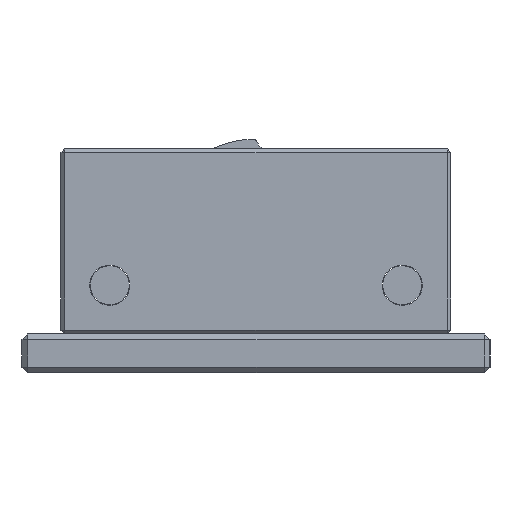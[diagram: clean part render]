
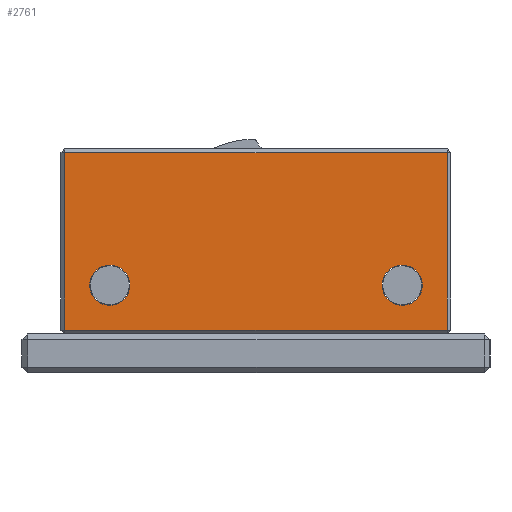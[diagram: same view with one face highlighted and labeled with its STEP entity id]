
A CAD part, left-side view. The second image highlights one B-rep face of the part: STEP entity #2761.
In plain terms, the highlighted planar face has unit normal (-1, 0, 0).
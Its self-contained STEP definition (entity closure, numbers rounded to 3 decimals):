
#1086 = PLANE('',#1087);
#1087 = AXIS2_PLACEMENT_3D('',#1088,#1089,#1090);
#1088 = CARTESIAN_POINT('',(-70.6,-40.,8.4));
#1089 = DIRECTION('',(-0.707,0.,-0.707));
#1090 = DIRECTION('',(0.,1.,0.));
#1968 = VERTEX_POINT('',#1969);
#1969 = CARTESIAN_POINT('',(-71.,-39.2,8.8));
#1990 = EDGE_CURVE('',#1968,#1991,#1993,.T.);
#1991 = VERTEX_POINT('',#1992);
#1992 = CARTESIAN_POINT('',(-71.,39.2,8.8));
#1993 = SURFACE_CURVE('',#1994,(#1998,#2005),.PCURVE_S1.);
#1994 = LINE('',#1995,#1996);
#1995 = CARTESIAN_POINT('',(-71.,-40.,8.8));
#1996 = VECTOR('',#1997,1.);
#1997 = DIRECTION('',(0.,1.,0.));
#1998 = PCURVE('',#1086,#1999);
#1999 = DEFINITIONAL_REPRESENTATION('',(#2000),#2004);
#2000 = LINE('',#2001,#2002);
#2001 = CARTESIAN_POINT('',(0.,-0.566));
#2002 = VECTOR('',#2003,1.);
#2003 = DIRECTION('',(1.,0.));
#2004 = ( GEOMETRIC_REPRESENTATION_CONTEXT(2) 
PARAMETRIC_REPRESENTATION_CONTEXT() REPRESENTATION_CONTEXT('2D SPACE',''
  ) );
#2005 = PCURVE('',#2006,#2011);
#2006 = PLANE('',#2007);
#2007 = AXIS2_PLACEMENT_3D('',#2008,#2009,#2010);
#2008 = CARTESIAN_POINT('',(-71.,-40.,8.));
#2009 = DIRECTION('',(1.,0.,0.));
#2010 = DIRECTION('',(0.,0.,1.));
#2011 = DEFINITIONAL_REPRESENTATION('',(#2012),#2016);
#2012 = LINE('',#2013,#2014);
#2013 = CARTESIAN_POINT('',(0.8,0.));
#2014 = VECTOR('',#2015,1.);
#2015 = DIRECTION('',(0.,-1.));
#2016 = ( GEOMETRIC_REPRESENTATION_CONTEXT(2) 
PARAMETRIC_REPRESENTATION_CONTEXT() REPRESENTATION_CONTEXT('2D SPACE',''
  ) );
#2643 = PLANE('',#2644);
#2644 = AXIS2_PLACEMENT_3D('',#2645,#2646,#2647);
#2645 = CARTESIAN_POINT('',(-70.6,-39.6,8.));
#2646 = DIRECTION('',(-0.707,-0.707,0.
    ));
#2647 = DIRECTION('',(0.,0.,-1.));
#2761 = ADVANCED_FACE('',(#2762,#2842,#2877),#2006,.F.);
#2762 = FACE_BOUND('',#2763,.F.);
#2763 = EDGE_LOOP('',(#2764,#2787,#2788,#2816));
#2764 = ORIENTED_EDGE('',*,*,#2765,.F.);
#2765 = EDGE_CURVE('',#1968,#2766,#2768,.T.);
#2766 = VERTEX_POINT('',#2767);
#2767 = CARTESIAN_POINT('',(-71.,-39.2,45.2));
#2768 = SURFACE_CURVE('',#2769,(#2773,#2780),.PCURVE_S1.);
#2769 = LINE('',#2770,#2771);
#2770 = CARTESIAN_POINT('',(-71.,-39.2,8.));
#2771 = VECTOR('',#2772,1.);
#2772 = DIRECTION('',(0.,0.,1.));
#2773 = PCURVE('',#2006,#2774);
#2774 = DEFINITIONAL_REPRESENTATION('',(#2775),#2779);
#2775 = LINE('',#2776,#2777);
#2776 = CARTESIAN_POINT('',(0.,-0.8));
#2777 = VECTOR('',#2778,1.);
#2778 = DIRECTION('',(1.,0.));
#2779 = ( GEOMETRIC_REPRESENTATION_CONTEXT(2) 
PARAMETRIC_REPRESENTATION_CONTEXT() REPRESENTATION_CONTEXT('2D SPACE',''
  ) );
#2780 = PCURVE('',#2643,#2781);
#2781 = DEFINITIONAL_REPRESENTATION('',(#2782),#2786);
#2782 = LINE('',#2783,#2784);
#2783 = CARTESIAN_POINT('',(0.,-0.566));
#2784 = VECTOR('',#2785,1.);
#2785 = DIRECTION('',(-1.,0.));
#2786 = ( GEOMETRIC_REPRESENTATION_CONTEXT(2) 
PARAMETRIC_REPRESENTATION_CONTEXT() REPRESENTATION_CONTEXT('2D SPACE',''
  ) );
#2787 = ORIENTED_EDGE('',*,*,#1990,.T.);
#2788 = ORIENTED_EDGE('',*,*,#2789,.T.);
#2789 = EDGE_CURVE('',#1991,#2790,#2792,.T.);
#2790 = VERTEX_POINT('',#2791);
#2791 = CARTESIAN_POINT('',(-71.,39.2,45.2));
#2792 = SURFACE_CURVE('',#2793,(#2797,#2804),.PCURVE_S1.);
#2793 = LINE('',#2794,#2795);
#2794 = CARTESIAN_POINT('',(-71.,39.2,8.));
#2795 = VECTOR('',#2796,1.);
#2796 = DIRECTION('',(0.,0.,1.));
#2797 = PCURVE('',#2006,#2798);
#2798 = DEFINITIONAL_REPRESENTATION('',(#2799),#2803);
#2799 = LINE('',#2800,#2801);
#2800 = CARTESIAN_POINT('',(0.,-79.2));
#2801 = VECTOR('',#2802,1.);
#2802 = DIRECTION('',(1.,0.));
#2803 = ( GEOMETRIC_REPRESENTATION_CONTEXT(2) 
PARAMETRIC_REPRESENTATION_CONTEXT() REPRESENTATION_CONTEXT('2D SPACE',''
  ) );
#2804 = PCURVE('',#2805,#2810);
#2805 = PLANE('',#2806);
#2806 = AXIS2_PLACEMENT_3D('',#2807,#2808,#2809);
#2807 = CARTESIAN_POINT('',(-70.6,39.6,8.));
#2808 = DIRECTION('',(0.707,-0.707,0.
    ));
#2809 = DIRECTION('',(0.,0.,-1.));
#2810 = DEFINITIONAL_REPRESENTATION('',(#2811),#2815);
#2811 = LINE('',#2812,#2813);
#2812 = CARTESIAN_POINT('',(0.,-0.566));
#2813 = VECTOR('',#2814,1.);
#2814 = DIRECTION('',(-1.,0.));
#2815 = ( GEOMETRIC_REPRESENTATION_CONTEXT(2) 
PARAMETRIC_REPRESENTATION_CONTEXT() REPRESENTATION_CONTEXT('2D SPACE',''
  ) );
#2816 = ORIENTED_EDGE('',*,*,#2817,.F.);
#2817 = EDGE_CURVE('',#2766,#2790,#2818,.T.);
#2818 = SURFACE_CURVE('',#2819,(#2823,#2830),.PCURVE_S1.);
#2819 = LINE('',#2820,#2821);
#2820 = CARTESIAN_POINT('',(-71.,-40.,45.2));
#2821 = VECTOR('',#2822,1.);
#2822 = DIRECTION('',(0.,1.,0.));
#2823 = PCURVE('',#2006,#2824);
#2824 = DEFINITIONAL_REPRESENTATION('',(#2825),#2829);
#2825 = LINE('',#2826,#2827);
#2826 = CARTESIAN_POINT('',(37.2,0.));
#2827 = VECTOR('',#2828,1.);
#2828 = DIRECTION('',(0.,-1.));
#2829 = ( GEOMETRIC_REPRESENTATION_CONTEXT(2) 
PARAMETRIC_REPRESENTATION_CONTEXT() REPRESENTATION_CONTEXT('2D SPACE',''
  ) );
#2830 = PCURVE('',#2831,#2836);
#2831 = PLANE('',#2832);
#2832 = AXIS2_PLACEMENT_3D('',#2833,#2834,#2835);
#2833 = CARTESIAN_POINT('',(-70.6,-40.,45.6));
#2834 = DIRECTION('',(0.707,0.,-0.707));
#2835 = DIRECTION('',(0.,1.,0.));
#2836 = DEFINITIONAL_REPRESENTATION('',(#2837),#2841);
#2837 = LINE('',#2838,#2839);
#2838 = CARTESIAN_POINT('',(0.,-0.566));
#2839 = VECTOR('',#2840,1.);
#2840 = DIRECTION('',(1.,0.));
#2841 = ( GEOMETRIC_REPRESENTATION_CONTEXT(2) 
PARAMETRIC_REPRESENTATION_CONTEXT() REPRESENTATION_CONTEXT('2D SPACE',''
  ) );
#2842 = FACE_BOUND('',#2843,.F.);
#2843 = EDGE_LOOP('',(#2844));
#2844 = ORIENTED_EDGE('',*,*,#2845,.T.);
#2845 = EDGE_CURVE('',#2846,#2846,#2848,.T.);
#2846 = VERTEX_POINT('',#2847);
#2847 = CARTESIAN_POINT('',(-71.,34.1,18.));
#2848 = SURFACE_CURVE('',#2849,(#2854,#2865),.PCURVE_S1.);
#2849 = CIRCLE('',#2850,4.1);
#2850 = AXIS2_PLACEMENT_3D('',#2851,#2852,#2853);
#2851 = CARTESIAN_POINT('',(-71.,30.,18.));
#2852 = DIRECTION('',(-1.,0.,0.));
#2853 = DIRECTION('',(0.,1.,0.));
#2854 = PCURVE('',#2006,#2855);
#2855 = DEFINITIONAL_REPRESENTATION('',(#2856),#2864);
#2856 = ( BOUNDED_CURVE() B_SPLINE_CURVE(2,(#2857,#2858,#2859,#2860,
#2861,#2862,#2863),.UNSPECIFIED.,.T.,.F.) B_SPLINE_CURVE_WITH_KNOTS((1,2
    ,2,2,2,1),(-2.094,0.,2.094,4.189,
6.283,8.378),.UNSPECIFIED.) CURVE() 
GEOMETRIC_REPRESENTATION_ITEM() RATIONAL_B_SPLINE_CURVE((1.,0.5,1.,0.5,
1.,0.5,1.)) REPRESENTATION_ITEM('') );
#2857 = CARTESIAN_POINT('',(10.,-74.1));
#2858 = CARTESIAN_POINT('',(2.899,-74.1));
#2859 = CARTESIAN_POINT('',(6.449,-67.95));
#2860 = CARTESIAN_POINT('',(10.,-61.8));
#2861 = CARTESIAN_POINT('',(13.551,-67.95));
#2862 = CARTESIAN_POINT('',(17.101,-74.1));
#2863 = CARTESIAN_POINT('',(10.,-74.1));
#2864 = ( GEOMETRIC_REPRESENTATION_CONTEXT(2) 
PARAMETRIC_REPRESENTATION_CONTEXT() REPRESENTATION_CONTEXT('2D SPACE',''
  ) );
#2865 = PCURVE('',#2866,#2871);
#2866 = CYLINDRICAL_SURFACE('',#2867,4.1);
#2867 = AXIS2_PLACEMENT_3D('',#2868,#2869,#2870);
#2868 = CARTESIAN_POINT('',(-73.,30.,18.));
#2869 = DIRECTION('',(-1.,-0.,-0.));
#2870 = DIRECTION('',(0.,1.,0.));
#2871 = DEFINITIONAL_REPRESENTATION('',(#2872),#2876);
#2872 = LINE('',#2873,#2874);
#2873 = CARTESIAN_POINT('',(-6.283,-2.));
#2874 = VECTOR('',#2875,1.);
#2875 = DIRECTION('',(1.,-0.));
#2876 = ( GEOMETRIC_REPRESENTATION_CONTEXT(2) 
PARAMETRIC_REPRESENTATION_CONTEXT() REPRESENTATION_CONTEXT('2D SPACE',''
  ) );
#2877 = FACE_BOUND('',#2878,.F.);
#2878 = EDGE_LOOP('',(#2879));
#2879 = ORIENTED_EDGE('',*,*,#2880,.T.);
#2880 = EDGE_CURVE('',#2881,#2881,#2883,.T.);
#2881 = VERTEX_POINT('',#2882);
#2882 = CARTESIAN_POINT('',(-71.,-25.9,18.));
#2883 = SURFACE_CURVE('',#2884,(#2889,#2900),.PCURVE_S1.);
#2884 = CIRCLE('',#2885,4.1);
#2885 = AXIS2_PLACEMENT_3D('',#2886,#2887,#2888);
#2886 = CARTESIAN_POINT('',(-71.,-30.,18.));
#2887 = DIRECTION('',(-1.,0.,0.));
#2888 = DIRECTION('',(0.,1.,0.));
#2889 = PCURVE('',#2006,#2890);
#2890 = DEFINITIONAL_REPRESENTATION('',(#2891),#2899);
#2891 = ( BOUNDED_CURVE() B_SPLINE_CURVE(2,(#2892,#2893,#2894,#2895,
#2896,#2897,#2898),.UNSPECIFIED.,.T.,.F.) B_SPLINE_CURVE_WITH_KNOTS((1,2
    ,2,2,2,1),(-2.094,0.,2.094,4.189,
6.283,8.378),.UNSPECIFIED.) CURVE() 
GEOMETRIC_REPRESENTATION_ITEM() RATIONAL_B_SPLINE_CURVE((1.,0.5,1.,0.5,
1.,0.5,1.)) REPRESENTATION_ITEM('') );
#2892 = CARTESIAN_POINT('',(10.,-14.1));
#2893 = CARTESIAN_POINT('',(2.899,-14.1));
#2894 = CARTESIAN_POINT('',(6.449,-7.95));
#2895 = CARTESIAN_POINT('',(10.,-1.8));
#2896 = CARTESIAN_POINT('',(13.551,-7.95));
#2897 = CARTESIAN_POINT('',(17.101,-14.1));
#2898 = CARTESIAN_POINT('',(10.,-14.1));
#2899 = ( GEOMETRIC_REPRESENTATION_CONTEXT(2) 
PARAMETRIC_REPRESENTATION_CONTEXT() REPRESENTATION_CONTEXT('2D SPACE',''
  ) );
#2900 = PCURVE('',#2901,#2906);
#2901 = CYLINDRICAL_SURFACE('',#2902,4.1);
#2902 = AXIS2_PLACEMENT_3D('',#2903,#2904,#2905);
#2903 = CARTESIAN_POINT('',(-73.,-30.,18.));
#2904 = DIRECTION('',(-1.,-0.,-0.));
#2905 = DIRECTION('',(0.,1.,0.));
#2906 = DEFINITIONAL_REPRESENTATION('',(#2907),#2911);
#2907 = LINE('',#2908,#2909);
#2908 = CARTESIAN_POINT('',(-6.283,-2.));
#2909 = VECTOR('',#2910,1.);
#2910 = DIRECTION('',(1.,-0.));
#2911 = ( GEOMETRIC_REPRESENTATION_CONTEXT(2) 
PARAMETRIC_REPRESENTATION_CONTEXT() REPRESENTATION_CONTEXT('2D SPACE',''
  ) );
